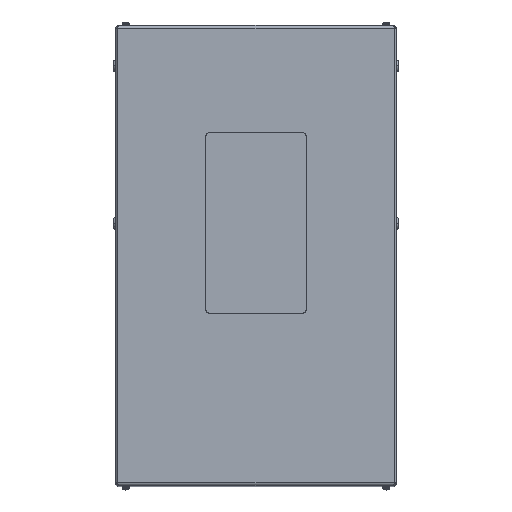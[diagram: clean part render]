
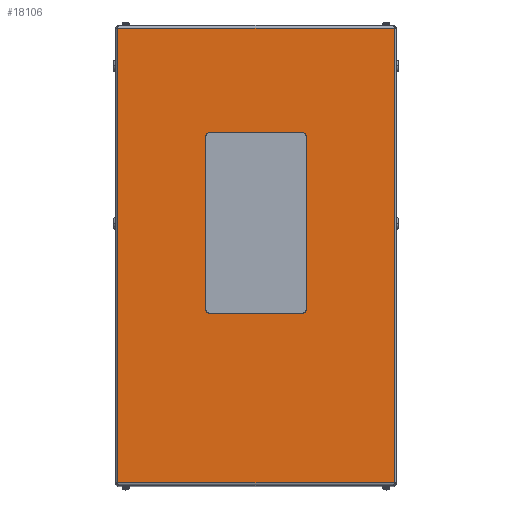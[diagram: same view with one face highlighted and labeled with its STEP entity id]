
A CAD part, top view. The second image highlights one B-rep face of the part: STEP entity #18106.
In plain terms, the highlighted planar face has unit normal (0, 0, 1).
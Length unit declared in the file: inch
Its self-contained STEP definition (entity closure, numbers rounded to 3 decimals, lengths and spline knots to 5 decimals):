
#557 = CARTESIAN_POINT ( 'NONE',  ( 4.75, 12.25, 29. ) ) ;
#952 = VERTEX_POINT ( 'NONE', #2750 ) ;
#993 = EDGE_CURVE ( 'NONE', #7261, #19306, #8820, .T. ) ;
#1052 = EDGE_CURVE ( 'NONE', #952, #17904, #18885, .T. ) ;
#1195 = DIRECTION ( 'NONE',  ( -1., 0., 0. ) ) ;
#1232 = VECTOR ( 'NONE', #1488, 39.37008 ) ;
#1488 = DIRECTION ( 'NONE',  ( 0., 1., 0. ) ) ;
#2075 = DIRECTION ( 'NONE',  ( -1., 0., 0. ) ) ;
#2136 = DIRECTION ( 'NONE',  ( 0., -1., 0. ) ) ;
#2550 = ORIENTED_EDGE ( 'NONE', *, *, #22759, .F. ) ;
#2633 = FACE_OUTER_BOUND ( 'NONE', #8587, .T. ) ;
#2750 = CARTESIAN_POINT ( 'NONE',  ( -4.75, -5.75, 29. ) ) ;
#2975 = AXIS2_PLACEMENT_3D ( 'NONE', #13936, #8576, #7022 ) ;
#3185 = CARTESIAN_POINT ( 'NONE',  ( 13.8, 22.734, 29. ) ) ;
#3359 = VERTEX_POINT ( 'NONE', #6718 ) ;
#3394 = DIRECTION ( 'NONE',  ( 1., 0., 0. ) ) ;
#3541 = EDGE_CURVE ( 'NONE', #5124, #20920, #19513, .T. ) ;
#3963 = CARTESIAN_POINT ( 'NONE',  ( -5., 12., 29. ) ) ;
#4618 = VECTOR ( 'NONE', #23136, 39.37008 ) ;
#5124 = VERTEX_POINT ( 'NONE', #557 ) ;
#5155 = CARTESIAN_POINT ( 'NONE',  ( 14., 22.734, 29. ) ) ;
#5168 = EDGE_CURVE ( 'NONE', #18029, #952, #20845, .T. ) ;
#5228 = LINE ( 'NONE', #7098, #1232 ) ;
#5690 = ORIENTED_EDGE ( 'NONE', *, *, #5168, .F. ) ;
#6203 = LINE ( 'NONE', #3963, #16744 ) ;
#6298 = EDGE_CURVE ( 'NONE', #20920, #16721, #12495, .T. ) ;
#6340 = FACE_BOUND ( 'NONE', #15207, .T. ) ;
#6351 = EDGE_CURVE ( 'NONE', #17904, #12547, #22370, .T. ) ;
#6365 = CARTESIAN_POINT ( 'NONE',  ( 13.8, -22.734, 29. ) ) ;
#6401 = AXIS2_PLACEMENT_3D ( 'NONE', #20596, #19062, #17162 ) ;
#6523 = CARTESIAN_POINT ( 'NONE',  ( -5., 12., 29. ) ) ;
#6718 = CARTESIAN_POINT ( 'NONE',  ( -13.8, -22.734, 29. ) ) ;
#7022 = DIRECTION ( 'NONE',  ( 1., 0., 0. ) ) ;
#7094 = CARTESIAN_POINT ( 'NONE',  ( -4.75, 12.25, 29. ) ) ;
#7098 = CARTESIAN_POINT ( 'NONE',  ( 13.8, 23., 29. ) ) ;
#7261 = VERTEX_POINT ( 'NONE', #3185 ) ;
#8042 = VECTOR ( 'NONE', #20526, 39.37008 ) ;
#8576 = DIRECTION ( 'NONE',  ( 0., 0., 1. ) ) ;
#8587 = EDGE_LOOP ( 'NONE', ( #17164, #15146, #22005, #14565 ) ) ;
#8601 = CARTESIAN_POINT ( 'NONE',  ( 14., 23., 29. ) ) ;
#8645 = CARTESIAN_POINT ( 'NONE',  ( 13.8, -22.734, 29. ) ) ;
#8820 = LINE ( 'NONE', #5155, #20227 ) ;
#9750 = LINE ( 'NONE', #22352, #14362 ) ;
#9966 = VERTEX_POINT ( 'NONE', #15627 ) ;
#9979 = VECTOR ( 'NONE', #2075, 39.37008 ) ;
#10601 = EDGE_CURVE ( 'NONE', #3359, #20252, #17363, .T. ) ;
#10607 = DIRECTION ( 'NONE',  ( -1., 0., 0. ) ) ;
#10933 = ORIENTED_EDGE ( 'NONE', *, *, #6298, .F. ) ;
#11235 = VECTOR ( 'NONE', #3394, 39.37008 ) ;
#11361 = CARTESIAN_POINT ( 'NONE',  ( -4.75, -5.75, 29. ) ) ;
#11475 = CARTESIAN_POINT ( 'NONE',  ( -5., -5.5, 29. ) ) ;
#11838 = AXIS2_PLACEMENT_3D ( 'NONE', #8601, #17321, #1195 ) ;
#12402 = CARTESIAN_POINT ( 'NONE',  ( 5., -5.5, 29. ) ) ;
#12492 = CARTESIAN_POINT ( 'NONE',  ( 4.75, -5.5, 29. ) ) ;
#12495 = CIRCLE ( 'NONE', #2975, 0.25 ) ;
#12547 = VERTEX_POINT ( 'NONE', #12402 ) ;
#12633 = CIRCLE ( 'NONE', #18373, 0.25 ) ;
#13663 = ORIENTED_EDGE ( 'NONE', *, *, #6351, .F. ) ;
#13936 = CARTESIAN_POINT ( 'NONE',  ( -4.75, 12., 29. ) ) ;
#13962 = PLANE ( 'NONE',  #11838 ) ;
#14362 = VECTOR ( 'NONE', #20585, 39.37008 ) ;
#14456 = CARTESIAN_POINT ( 'NONE',  ( -13.8, 23., 29. ) ) ;
#14565 = ORIENTED_EDGE ( 'NONE', *, *, #993, .T. ) ;
#15146 = ORIENTED_EDGE ( 'NONE', *, *, #10601, .T. ) ;
#15207 = EDGE_LOOP ( 'NONE', ( #16445, #5690, #16563, #10933, #15305, #2550, #18511, #13663 ) ) ;
#15305 = ORIENTED_EDGE ( 'NONE', *, *, #3541, .F. ) ;
#15627 = CARTESIAN_POINT ( 'NONE',  ( 5., 12., 29. ) ) ;
#16264 = LINE ( 'NONE', #14456, #4618 ) ;
#16325 = EDGE_CURVE ( 'NONE', #16721, #18029, #6203, .T. ) ;
#16445 = ORIENTED_EDGE ( 'NONE', *, *, #1052, .F. ) ;
#16563 = ORIENTED_EDGE ( 'NONE', *, *, #16325, .F. ) ;
#16703 = AXIS2_PLACEMENT_3D ( 'NONE', #12492, #18014, #17884 ) ;
#16721 = VERTEX_POINT ( 'NONE', #6523 ) ;
#16744 = VECTOR ( 'NONE', #2136, 39.37008 ) ;
#17046 = EDGE_CURVE ( 'NONE', #19306, #3359, #16264, .T. ) ;
#17162 = DIRECTION ( 'NONE',  ( 1., 0., 0. ) ) ;
#17164 = ORIENTED_EDGE ( 'NONE', *, *, #17046, .T. ) ;
#17321 = DIRECTION ( 'NONE',  ( 0., 0., -1. ) ) ;
#17363 = LINE ( 'NONE', #8645, #11235 ) ;
#17884 = DIRECTION ( 'NONE',  ( 1., 0., 0. ) ) ;
#17904 = VERTEX_POINT ( 'NONE', #23021 ) ;
#18014 = DIRECTION ( 'NONE',  ( 0., 0., 1. ) ) ;
#18029 = VERTEX_POINT ( 'NONE', #11475 ) ;
#18106 = ADVANCED_FACE ( 'NONE', ( #6340, #2633 ), #13962, .F. ) ;
#18373 = AXIS2_PLACEMENT_3D ( 'NONE', #20706, #22948, #22703 ) ;
#18511 = ORIENTED_EDGE ( 'NONE', *, *, #19291, .F. ) ;
#18885 = LINE ( 'NONE', #11361, #8042 ) ;
#19062 = DIRECTION ( 'NONE',  ( 0., 0., 1. ) ) ;
#19291 = EDGE_CURVE ( 'NONE', #12547, #9966, #9750, .T. ) ;
#19306 = VERTEX_POINT ( 'NONE', #20246 ) ;
#19513 = LINE ( 'NONE', #7094, #9979 ) ;
#20227 = VECTOR ( 'NONE', #10607, 39.37008 ) ;
#20246 = CARTESIAN_POINT ( 'NONE',  ( -13.8, 22.734, 29. ) ) ;
#20252 = VERTEX_POINT ( 'NONE', #6365 ) ;
#20526 = DIRECTION ( 'NONE',  ( 1., 0., 0. ) ) ;
#20585 = DIRECTION ( 'NONE',  ( 0., 1., 0. ) ) ;
#20596 = CARTESIAN_POINT ( 'NONE',  ( -4.75, -5.5, 29. ) ) ;
#20706 = CARTESIAN_POINT ( 'NONE',  ( 4.75, 12., 29. ) ) ;
#20845 = CIRCLE ( 'NONE', #6401, 0.25 ) ;
#20920 = VERTEX_POINT ( 'NONE', #21739 ) ;
#21739 = CARTESIAN_POINT ( 'NONE',  ( -4.75, 12.25, 29. ) ) ;
#22005 = ORIENTED_EDGE ( 'NONE', *, *, #23423, .T. ) ;
#22352 = CARTESIAN_POINT ( 'NONE',  ( 5., 12., 29. ) ) ;
#22370 = CIRCLE ( 'NONE', #16703, 0.25 ) ;
#22703 = DIRECTION ( 'NONE',  ( -1., 0., 0. ) ) ;
#22759 = EDGE_CURVE ( 'NONE', #9966, #5124, #12633, .T. ) ;
#22948 = DIRECTION ( 'NONE',  ( 0., 0., 1. ) ) ;
#23021 = CARTESIAN_POINT ( 'NONE',  ( 4.75, -5.75, 29. ) ) ;
#23136 = DIRECTION ( 'NONE',  ( 0., -1., 0. ) ) ;
#23423 = EDGE_CURVE ( 'NONE', #20252, #7261, #5228, .T. ) ;
